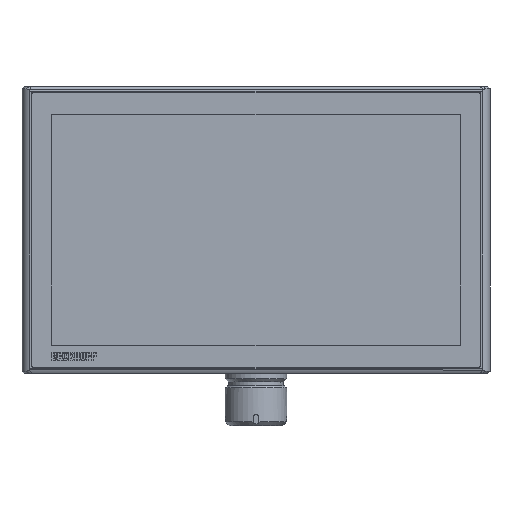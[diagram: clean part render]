
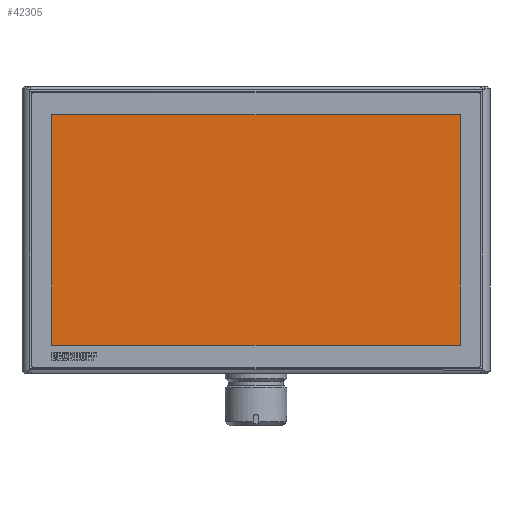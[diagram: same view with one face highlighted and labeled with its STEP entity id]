
A CAD part, top view. The second image highlights one B-rep face of the part: STEP entity #42305.
In plain terms, the highlighted planar face has unit normal (0, 0, 1).
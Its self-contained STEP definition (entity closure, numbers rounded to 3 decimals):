
#2118=LINE('',#63888,#6185);
#2119=LINE('',#63890,#6186);
#2120=LINE('',#63892,#6187);
#2121=LINE('',#63893,#6188);
#6185=VECTOR('',#49605,232.2);
#6186=VECTOR('',#49606,411.6);
#6187=VECTOR('',#49607,232.2);
#6188=VECTOR('',#49608,411.6);
#9948=PLANE('',#44818);
#11505=FACE_OUTER_BOUND('',#13906,.T.);
#13906=EDGE_LOOP('',(#29552,#29553,#29554,#29555));
#18303=VERTEX_POINT('',#63886);
#18304=VERTEX_POINT('',#63887);
#18305=VERTEX_POINT('',#63889);
#18306=VERTEX_POINT('',#63891);
#22671=EDGE_CURVE('',#18303,#18304,#2118,.T.);
#22672=EDGE_CURVE('',#18305,#18303,#2119,.T.);
#22673=EDGE_CURVE('',#18306,#18305,#2120,.T.);
#22674=EDGE_CURVE('',#18304,#18306,#2121,.T.);
#29552=ORIENTED_EDGE('',*,*,#22671,.F.);
#29553=ORIENTED_EDGE('',*,*,#22672,.F.);
#29554=ORIENTED_EDGE('',*,*,#22673,.F.);
#29555=ORIENTED_EDGE('',*,*,#22674,.F.);
#42305=ADVANCED_FACE('',(#11505),#9948,.T.);
#44818=AXIS2_PLACEMENT_3D('',#63885,#49603,#49604);
#49603=DIRECTION('center_axis',(0.,0.,
1.));
#49604=DIRECTION('ref_axis',(1.,0.,0.));
#49605=DIRECTION('',(0.,-1.,0.));
#49606=DIRECTION('',(1.,0.,0.));
#49607=DIRECTION('',(0.,1.,0.));
#49608=DIRECTION('',(-1.,0.,0.));
#63885=CARTESIAN_POINT('Origin',(0.,0.,
11.8));
#63886=CARTESIAN_POINT('',(205.8,116.1,11.8));
#63887=CARTESIAN_POINT('',(205.8,-116.1,11.8));
#63888=CARTESIAN_POINT('',(205.8,-58.05,11.8));
#63889=CARTESIAN_POINT('',(-205.8,116.1,11.8));
#63890=CARTESIAN_POINT('',(102.9,116.1,11.8));
#63891=CARTESIAN_POINT('',(-205.8,-116.1,11.8));
#63892=CARTESIAN_POINT('',(-205.8,58.05,11.8));
#63893=CARTESIAN_POINT('',(-102.9,-116.1,11.8));
